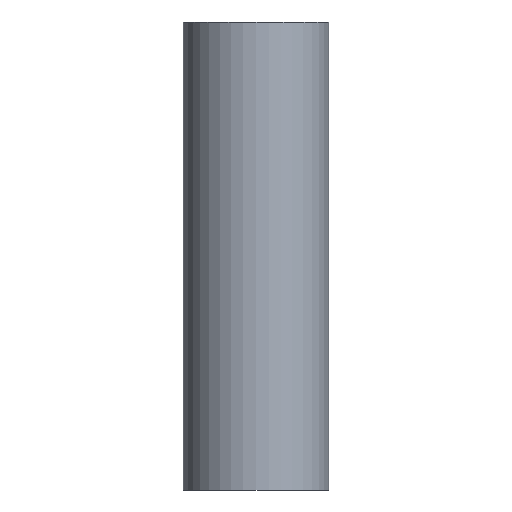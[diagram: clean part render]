
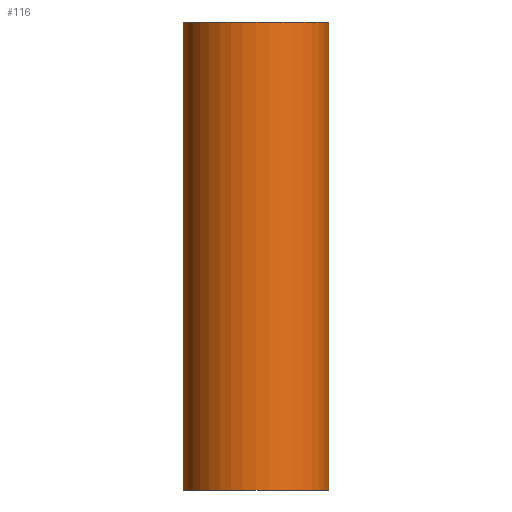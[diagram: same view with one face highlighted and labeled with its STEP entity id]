
A CAD part, left-side view. The second image highlights one B-rep face of the part: STEP entity #116.
In plain terms, the highlighted cylindrical face has radius 28 mm (diameter 56 mm), a full revolution.
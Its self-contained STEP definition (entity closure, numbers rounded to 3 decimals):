
#23=FACE_BOUND('',#51,.T.);
#24=FACE_BOUND('',#52,.T.);
#30=CIRCLE('',#151,28.);
#31=CIRCLE('',#153,28.);
#37=FACE_OUTER_BOUND('',#50,.T.);
#50=EDGE_LOOP('',(#93));
#51=EDGE_LOOP('',(#94,#95));
#52=EDGE_LOOP('',(#96));
#57=ELLIPSE('',#146,73.168,28.);
#58=ELLIPSE('',#147,30.307,28.);
#64=VERTEX_POINT('',#205);
#65=VERTEX_POINT('',#206);
#67=VERTEX_POINT('',#213);
#68=VERTEX_POINT('',#216);
#74=EDGE_CURVE('',#64,#65,#57,.T.);
#75=EDGE_CURVE('',#65,#64,#58,.T.);
#77=EDGE_CURVE('',#67,#67,#30,.T.);
#78=EDGE_CURVE('',#68,#68,#31,.T.);
#93=ORIENTED_EDGE('',*,*,#77,.T.);
#94=ORIENTED_EDGE('',*,*,#75,.T.);
#95=ORIENTED_EDGE('',*,*,#74,.T.);
#96=ORIENTED_EDGE('',*,*,#78,.F.);
#102=CYLINDRICAL_SURFACE('',#152,28.);
#116=ADVANCED_FACE('',(#37,#23,#24),#102,.T.);
#146=AXIS2_PLACEMENT_3D('',#207,#173,#174);
#147=AXIS2_PLACEMENT_3D('',#208,#175,#176);
#151=AXIS2_PLACEMENT_3D('',#214,#183,#184);
#152=AXIS2_PLACEMENT_3D('',#215,#185,#186);
#153=AXIS2_PLACEMENT_3D('',#217,#187,#188);
#173=DIRECTION('center_axis',(-0.924,0.,0.383));
#174=DIRECTION('ref_axis',(-0.383,0.,-0.924));
#175=DIRECTION('center_axis',(-0.383,0.,-0.924));
#176=DIRECTION('ref_axis',(0.924,0.,-0.383));
#183=DIRECTION('center_axis',(0.,0.,-1.));
#184=DIRECTION('ref_axis',(1.,0.,0.));
#185=DIRECTION('center_axis',(0.,0.,-1.));
#186=DIRECTION('ref_axis',(-1.,0.,0.));
#187=DIRECTION('center_axis',(0.,0.,-1.));
#188=DIRECTION('ref_axis',(1.,0.,0.));
#205=CARTESIAN_POINT('',(0.,-28.,60.));
#206=CARTESIAN_POINT('',(0.,28.,60.));
#207=CARTESIAN_POINT('Origin',(0.,0.,60.));
#208=CARTESIAN_POINT('Origin',(0.,0.,60.));
#213=CARTESIAN_POINT('',(-28.,0.,180.));
#214=CARTESIAN_POINT('Origin',(0.,0.,180.));
#215=CARTESIAN_POINT('Origin',(0.,0.,90.));
#216=CARTESIAN_POINT('',(-28.,0.,0.));
#217=CARTESIAN_POINT('Origin',(0.,0.,0.));
